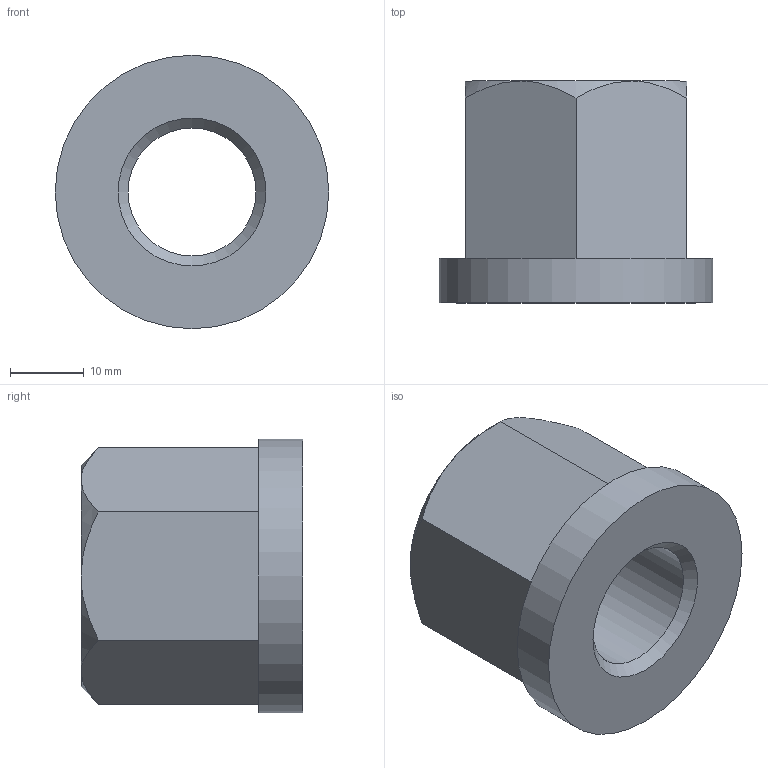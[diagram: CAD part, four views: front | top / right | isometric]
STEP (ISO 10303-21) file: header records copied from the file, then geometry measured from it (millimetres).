
FILE_DESCRIPTION( ( 'STEP AP203' ), '1' );
FILE_NAME( 'C:/Temp/Ganter_Step_05_03_2020/data/3_2/din6331/Hexagon nut DIN 6331-M20.stp', '2020-03-13T05:16:16', ( 'License CC BY-ND 4.0' ), ( 'CADENAS' ), ' ', 'PARTsolutions', ' ' );
FILE_SCHEMA( ( 'CONFIG_CONTROL_DESIGN' ) );
Length unit declared in the file: millimetre
Products named in the file (1): _Hexagon nut DIN 6331-M20
Bounding box: 37 x 30 x 37 mm (x, y, z)
Volume: 17955 mm3; surface area: 6368.1 mm2
Topology: 1 solids, 1 shells, 19 faces, 41 edges, 25 vertices
Faces by surface type: plane 9, cone 8, cylinder 2
Full cylindrical faces by diameter (mm): 17.294 x1, 37 x1
Entity records: 590 total; most frequent: CARTESIAN_POINT 164, DIRECTION 76, ORIENTED_EDGE 72, EDGE_CURVE 36, AXIS2_PLACEMENT_3D 32, EDGE_LOOP 26, VERTEX_POINT 24, FACE_OUTER_BOUND 21
